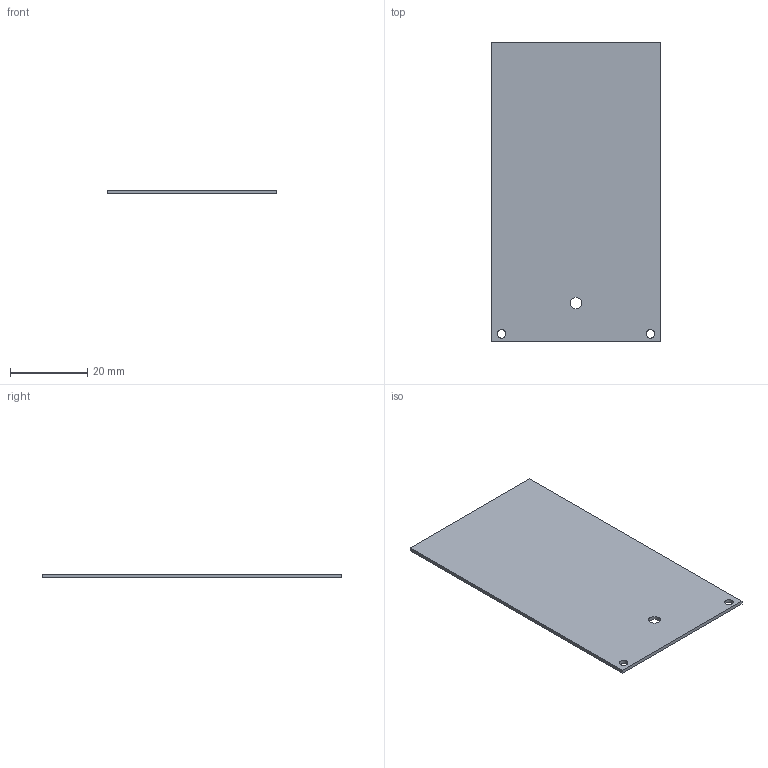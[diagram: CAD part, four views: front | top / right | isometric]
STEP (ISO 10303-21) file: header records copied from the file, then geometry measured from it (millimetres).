
FILE_DESCRIPTION(('KiCad electronic assembly'),'2;1');
FILE_NAME('monolith_side_cover.step','2026-10-18T14:24:12',('Pcbnew'),( 'Kicad'),'Open CASCADE STEP processor 7.9','KiCad to STEP converter' ,'Unknown');
FILE_SCHEMA(('AUTOMOTIVE_DESIGN { 1 0 10303 214 1 1 1 1 }'));
Length unit declared in the file: millimetre
Products named in the file (2): monolith_side_cover 1; _cover_tmp_PCB
Assembly tree (1 placements, depth 2):
  monolith_side_cover 1
    _cover_tmp_PCB
Bounding box: 44 x 77.8 x 0.93 mm (x, y, z)
Volume: 3169.9 mm3; surface area: 7065.2 mm2
Topology: 1 solids, 1 shells, 9 faces, 21 edges, 14 vertices
Faces by surface type: plane 6, cylinder 3
Full cylindrical faces by diameter (mm): 2.2 x2, 3 x1
Entity records: 310 total; most frequent: DIRECTION 49, CARTESIAN_POINT 46, ORIENTED_EDGE 42, EDGE_CURVE 21, AXIS2_PLACEMENT_3D 17, FACE_BOUND 15, EDGE_LOOP 15, LINE 15
